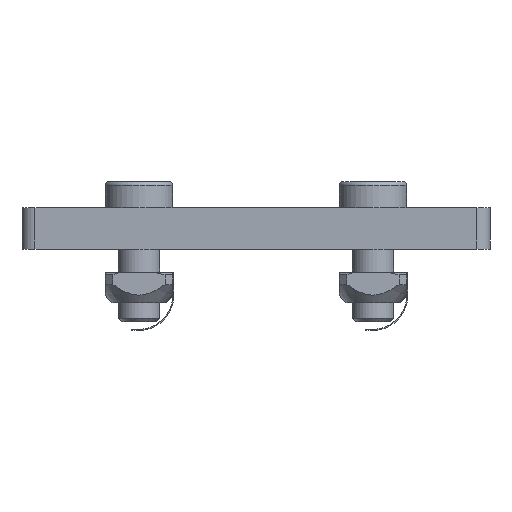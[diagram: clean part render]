
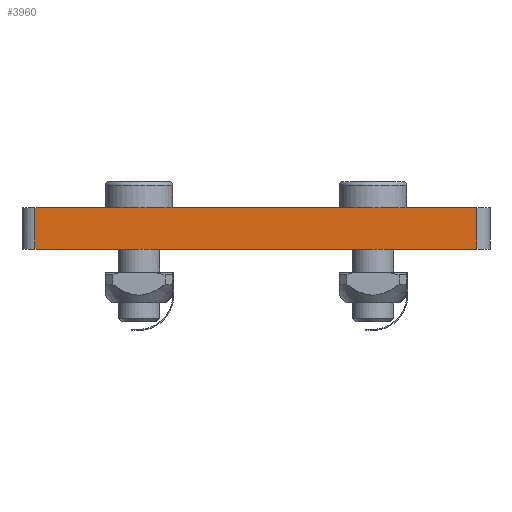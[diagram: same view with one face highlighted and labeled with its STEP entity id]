
A CAD part, front view. The second image highlights one B-rep face of the part: STEP entity #3960.
In plain terms, the highlighted planar face has unit normal (0, -1, 0).
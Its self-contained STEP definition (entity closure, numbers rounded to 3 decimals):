
#322 = EDGE_CURVE ( 'NONE', #6766, #1679, #22034, .T. ) ;
#1679 = VERTEX_POINT ( 'NONE', #8520 ) ;
#1736 = LINE ( 'NONE', #5355, #12562 ) ;
#3536 = LINE ( 'NONE', #6750, #17922 ) ;
#3664 = EDGE_CURVE ( 'NONE', #7279, #12497, #1736, .T. ) ;
#3960 = ADVANCED_FACE ( 'NONE', ( #18323 ), #20540, .F. ) ;
#4497 = EDGE_CURVE ( 'NONE', #6766, #12497, #22310, .T. ) ;
#5355 = CARTESIAN_POINT ( 'NONE',  ( 699.381, 768.914, 1280.911 ) ) ;
#5719 = CARTESIAN_POINT ( 'NONE',  ( 614.381, 768.914, 1280.911 ) ) ;
#5973 = ORIENTED_EDGE ( 'NONE', *, *, #12355, .T. ) ;
#6264 = CARTESIAN_POINT ( 'NONE',  ( 611.881, 768.914, 1280.911 ) ) ;
#6601 = ORIENTED_EDGE ( 'NONE', *, *, #3664, .T. ) ;
#6750 = CARTESIAN_POINT ( 'NONE',  ( 611.881, 768.914, 1272.911 ) ) ;
#6766 = VERTEX_POINT ( 'NONE', #16548 ) ;
#7279 = VERTEX_POINT ( 'NONE', #8841 ) ;
#8520 = CARTESIAN_POINT ( 'NONE',  ( 614.381, 768.914, 1272.911 ) ) ;
#8841 = CARTESIAN_POINT ( 'NONE',  ( 699.381, 768.914, 1272.911 ) ) ;
#10009 = VECTOR ( 'NONE', #10443, 1000. ) ;
#10443 = DIRECTION ( 'NONE',  ( 1., 0., 0. ) ) ;
#10678 = DIRECTION ( 'NONE',  ( 1., 0., 0. ) ) ;
#11030 = ORIENTED_EDGE ( 'NONE', *, *, #4497, .F. ) ;
#12084 = DIRECTION ( 'NONE',  ( 0., 1., 0. ) ) ;
#12355 = EDGE_CURVE ( 'NONE', #1679, #7279, #3536, .T. ) ;
#12497 = VERTEX_POINT ( 'NONE', #13414 ) ;
#12562 = VECTOR ( 'NONE', #23073, 1000. ) ;
#13414 = CARTESIAN_POINT ( 'NONE',  ( 699.381, 768.914, 1280.911 ) ) ;
#13617 = CARTESIAN_POINT ( 'NONE',  ( 611.881, 768.914, 1280.911 ) ) ;
#14101 = VECTOR ( 'NONE', #20388, 1000. ) ;
#14909 = ORIENTED_EDGE ( 'NONE', *, *, #322, .T. ) ;
#15734 = DIRECTION ( 'NONE',  ( 0., 0., 1. ) ) ;
#16548 = CARTESIAN_POINT ( 'NONE',  ( 614.381, 768.914, 1280.911 ) ) ;
#17620 = EDGE_LOOP ( 'NONE', ( #5973, #6601, #11030, #14909 ) ) ;
#17763 = AXIS2_PLACEMENT_3D ( 'NONE', #13617, #12084, #15734 ) ;
#17922 = VECTOR ( 'NONE', #10678, 1000. ) ;
#18323 = FACE_OUTER_BOUND ( 'NONE', #17620, .T. ) ;
#20388 = DIRECTION ( 'NONE',  ( 0., 0., -1. ) ) ;
#20540 = PLANE ( 'NONE',  #17763 ) ;
#22034 = LINE ( 'NONE', #5719, #14101 ) ;
#22310 = LINE ( 'NONE', #6264, #10009 ) ;
#23073 = DIRECTION ( 'NONE',  ( 0., 0., 1. ) ) ;
